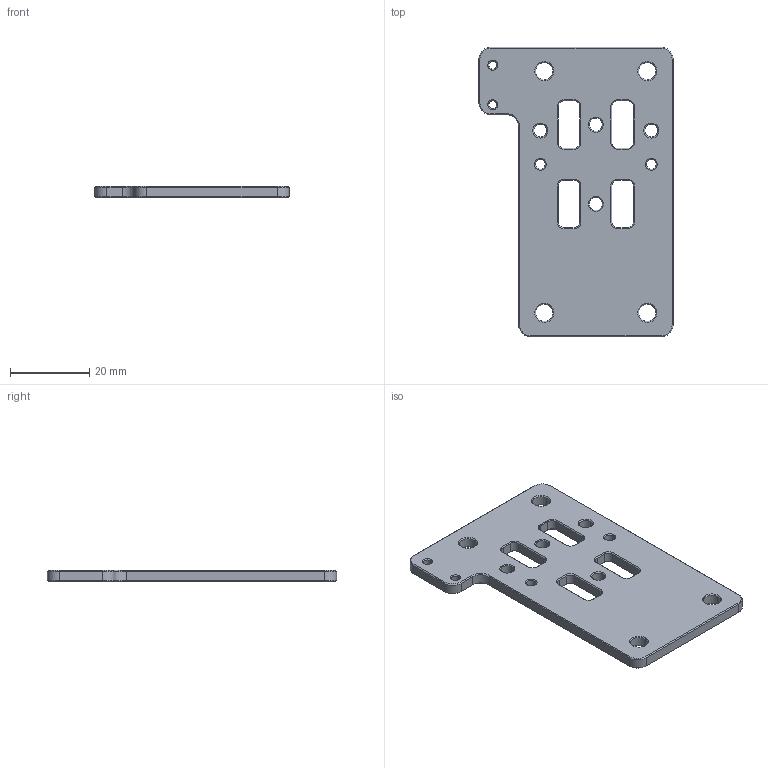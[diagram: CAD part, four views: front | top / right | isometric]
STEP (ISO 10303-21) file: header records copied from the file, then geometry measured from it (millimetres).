
FILE_DESCRIPTION (( 'STEP AP203' ), '1' );
FILE_NAME ('MAM13502 -XB- Plaque de fixation Courroies X.STEP', '2024-12-19T11:20:20', ( '' ), ( '' ), 'SwSTEP 2.0', 'SolidWorks 2019', '' );
FILE_SCHEMA (( 'CONFIG_CONTROL_DESIGN' ));
Length unit declared in the file: millimetre
Products named in the file (1): MAM13502 -XB- Plaque de fixation Courroies X
Bounding box: 49 x 73 x 3 mm (x, y, z)
Volume: 7902.7 mm3; surface area: 6617.5 mm2
Topology: 1 solids, 1 shells, 206 faces, 476 edges, 272 vertices
Faces by surface type: cone 92, plane 68, cylinder 46
Entity records: 5857 total; most frequent: DIRECTION 1074, CARTESIAN_POINT 955, ORIENTED_EDGE 952, EDGE_CURVE 476, AXIS2_PLACEMENT_3D 391, VECTOR 292, LINE 292, VERTEX_POINT 272
